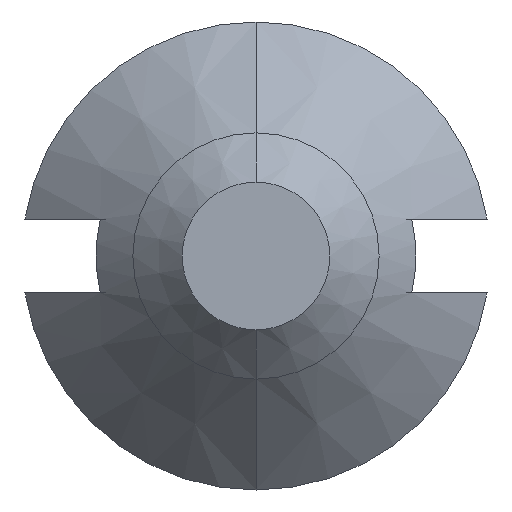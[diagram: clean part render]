
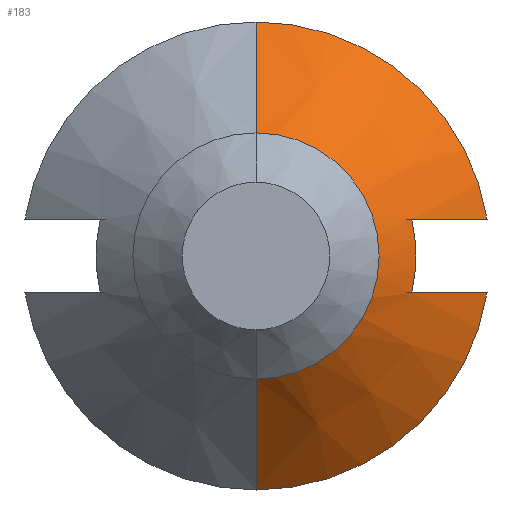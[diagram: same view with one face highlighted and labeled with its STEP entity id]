
A CAD part, front view. The second image highlights one B-rep face of the part: STEP entity #183.
In plain terms, the highlighted conical face has half-angle 45 degrees and reference radius 0.95 mm.
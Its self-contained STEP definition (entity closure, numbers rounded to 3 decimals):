
#7 = CARTESIAN_POINT ( 'NONE',  ( 0.837, 5.85, -0.15 ) ) ;
#10 = CARTESIAN_POINT ( 'NONE',  ( 0.938, 5.95, -0.15 ) ) ;
#12 = CARTESIAN_POINT ( 'NONE',  ( 0., 5.95, -0.95 ) ) ;
#14 = CARTESIAN_POINT ( 'NONE',  ( 0.938, 5.95, 0.15 ) ) ;
#19 = CARTESIAN_POINT ( 'NONE',  ( 0.837, 5.85, 0.15 ) ) ;
#20 = CARTESIAN_POINT ( 'NONE',  ( 0.735, 5.75, 0.15 ) ) ;
#23 = DIRECTION ( 'NONE',  ( 0., 0.707, 0.707 ) ) ;
#30 = CARTESIAN_POINT ( 'NONE',  ( 0.632, 5.65, 0.15 ) ) ;
#33 = CARTESIAN_POINT ( 'NONE',  ( 0., 5.5, 0.5 ) ) ;
#37 = CARTESIAN_POINT ( 'NONE',  ( 0.735, 5.75, -0.15 ) ) ;
#40 = CARTESIAN_POINT ( 'NONE',  ( 0.632, 5.65, -0.15 ) ) ;
#43 = DIRECTION ( 'NONE',  ( 0., 0.707, -0.707 ) ) ;
#44 = CARTESIAN_POINT ( 'NONE',  ( 0.938, 5.95, -0.15 ) ) ;
#47 = CARTESIAN_POINT ( 'NONE',  ( 0., 5.95, -0.95 ) ) ;
#48 = CARTESIAN_POINT ( 'NONE',  ( 0.938, 5.95, 0.15 ) ) ;
#53 = CARTESIAN_POINT ( 'NONE',  ( 0., 5.5, -0.5 ) ) ;
#57 = CARTESIAN_POINT ( 'NONE',  ( 0.632, 5.65, 0.15 ) ) ;
#58 = CARTESIAN_POINT ( 'NONE',  ( 0., 5.95, 0.95 ) ) ;
#67 = CARTESIAN_POINT ( 'NONE',  ( 0.632, 5.65, -0.15 ) ) ;
#79 = CARTESIAN_POINT ( 'NONE',  ( 0., 5.95, 0. ) ) ;
#80 = DIRECTION ( 'NONE',  ( 0., 1., 0. ) ) ;
#83 = DIRECTION ( 'NONE',  ( 0., 0., 1. ) ) ;
#88 = DIRECTION ( 'NONE',  ( 0., 1., 0. ) ) ;
#92 = DIRECTION ( 'NONE',  ( 0., 0., 1. ) ) ;
#120 = CARTESIAN_POINT ( 'NONE',  ( 0., 5.5, 0. ) ) ;
#121 = DIRECTION ( 'NONE',  ( 0., -1., 0. ) ) ;
#122 = DIRECTION ( 'NONE',  ( 0., 0., -1. ) ) ;
#129 = CARTESIAN_POINT ( 'NONE',  ( 0., 5.65, 0. ) ) ;
#136 = DIRECTION ( 'NONE',  ( 0., -1., 0. ) ) ;
#142 = CARTESIAN_POINT ( 'NONE',  ( 0., 5.95, 0. ) ) ;
#144 = CARTESIAN_POINT ( 'NONE',  ( 0., 5.95, 0. ) ) ;
#152 = DIRECTION ( 'NONE',  ( 0., -1., 0. ) ) ;
#153 = DIRECTION ( 'NONE',  ( 0., 0., -1. ) ) ;
#155 = CARTESIAN_POINT ( 'NONE',  ( 0., 5.95, 0.95 ) ) ;
#156 = DIRECTION ( 'NONE',  ( 0., 0., -1. ) ) ;
#160 = EDGE_LOOP ( 'NONE', ( #281, #178, #177, #169, #170, #171, #172, #278 ) ) ;
#169 = ORIENTED_EDGE ( 'NONE', *, *, #212, .T. ) ;
#170 = ORIENTED_EDGE ( 'NONE', *, *, #200, .F. ) ;
#171 = ORIENTED_EDGE ( 'NONE', *, *, #226, .T. ) ;
#172 = ORIENTED_EDGE ( 'NONE', *, *, #204, .T. ) ;
#177 = ORIENTED_EDGE ( 'NONE', *, *, #205, .T. ) ;
#178 = ORIENTED_EDGE ( 'NONE', *, *, #220, .T. ) ;
#183 = ADVANCED_FACE ( 'NONE', ( #327 ), #323, .T. ) ;
#198 = EDGE_CURVE ( 'NONE', #331, #296, #324, .T. ) ;
#200 = EDGE_CURVE ( 'NONE', #303, #321, #329, .T. ) ;
#204 = EDGE_CURVE ( 'NONE', #314, #322, #334, .T. ) ;
#205 = EDGE_CURVE ( 'NONE', #301, #289, #338, .T. ) ;
#211 = EDGE_CURVE ( 'NONE', #296, #322, #354, .T. ) ;
#212 = EDGE_CURVE ( 'NONE', #289, #321, #273, .T. ) ;
#213 = AXIS2_PLACEMENT_3D ( 'NONE', #79, #80, #83 ) ;
#220 = EDGE_CURVE ( 'NONE', #331, #301, #366, .T. ) ;
#226 = EDGE_CURVE ( 'NONE', #303, #314, #271, .T. ) ;
#234 = AXIS2_PLACEMENT_3D ( 'NONE', #120, #121, #122 ) ;
#244 = AXIS2_PLACEMENT_3D ( 'NONE', #144, #136, #156 ) ;
#254 = AXIS2_PLACEMENT_3D ( 'NONE', #142, #152, #153 ) ;
#257 = AXIS2_PLACEMENT_3D ( 'NONE', #129, #88, #92 ) ;
#271 = B_SPLINE_CURVE_WITH_KNOTS ( 'NONE', 3,
 ( #30, #20, #19, #14 ),
 .UNSPECIFIED., .F., .F.,
 ( 4, 4 ),
 ( 0.004, 0.004 ),
 .UNSPECIFIED. ) ;
#273 = B_SPLINE_CURVE_WITH_KNOTS ( 'NONE', 3,
 ( #10, #7, #37, #40 ),
 .UNSPECIFIED., .F., .F.,
 ( 4, 4 ),
 ( 0.002, 0.002 ),
 .UNSPECIFIED. ) ;
#278 = ORIENTED_EDGE ( 'NONE', *, *, #211, .F. ) ;
#281 = ORIENTED_EDGE ( 'NONE', *, *, #198, .F. ) ;
#289 = VERTEX_POINT ( 'NONE', #44 ) ;
#296 = VERTEX_POINT ( 'NONE', #33 ) ;
#301 = VERTEX_POINT ( 'NONE', #47 ) ;
#303 = VERTEX_POINT ( 'NONE', #57 ) ;
#314 = VERTEX_POINT ( 'NONE', #48 ) ;
#321 = VERTEX_POINT ( 'NONE', #67 ) ;
#322 = VERTEX_POINT ( 'NONE', #58 ) ;
#323 = CONICAL_SURFACE ( 'NONE', #213, 0.95, 0.785 ) ;
#324 = CIRCLE ( 'NONE', #234, 0.5 ) ;
#327 = FACE_OUTER_BOUND ( 'NONE', #160, .T. ) ;
#329 = CIRCLE ( 'NONE', #257, 0.65 ) ;
#331 = VERTEX_POINT ( 'NONE', #53 ) ;
#334 = CIRCLE ( 'NONE', #254, 0.95 ) ;
#338 = CIRCLE ( 'NONE', #244, 0.95 ) ;
#354 = LINE ( 'NONE', #155, #368 ) ;
#363 = VECTOR ( 'NONE', #43, 1000. ) ;
#366 = LINE ( 'NONE', #12, #363 ) ;
#368 = VECTOR ( 'NONE', #23, 1000. ) ;
